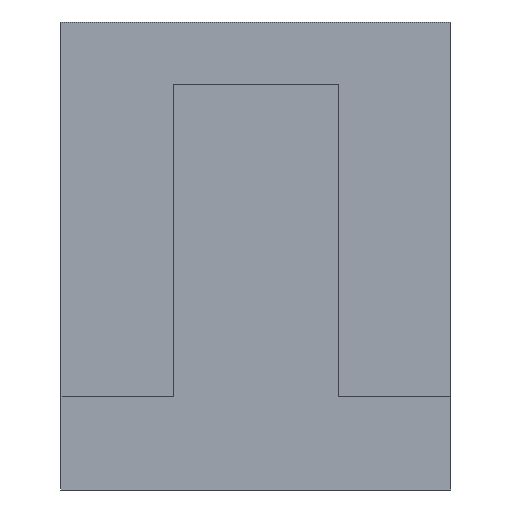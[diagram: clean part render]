
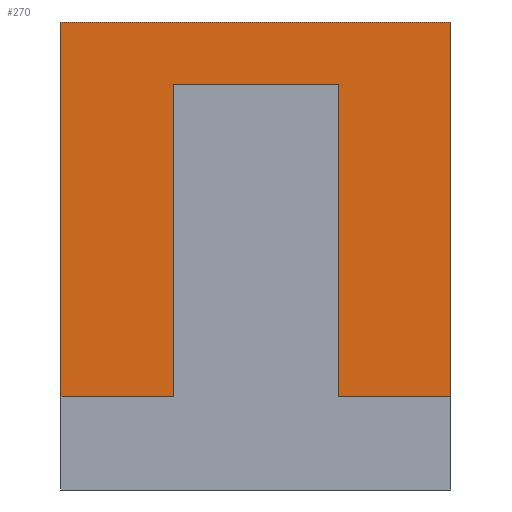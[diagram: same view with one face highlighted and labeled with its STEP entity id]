
A CAD part, left-side view. The second image highlights one B-rep face of the part: STEP entity #270.
In plain terms, the highlighted planar face has unit normal (-1, 0, 0).
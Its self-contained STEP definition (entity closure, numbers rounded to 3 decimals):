
#234=AXIS2_PLACEMENT_3D('Plane Axis2P3D',#231,#232,#233) ;
#231=CARTESIAN_POINT('Axis2P3D Location',(2.5,-12.5,6.)) ;
#236=CARTESIAN_POINT('Line Origine',(2.5,0.,30.)) ;
#240=CARTESIAN_POINT('Vertex',(2.5,12.5,30.)) ;
#242=CARTESIAN_POINT('Vertex',(2.5,-12.5,30.)) ;
#245=CARTESIAN_POINT('Line Origine',(2.5,12.5,18.)) ;
#249=CARTESIAN_POINT('Vertex',(2.5,12.5,6.)) ;
#252=CARTESIAN_POINT('Line Origine',(2.5,0.,6.)) ;
#256=CARTESIAN_POINT('Vertex',(2.5,-12.5,6.)) ;
#259=CARTESIAN_POINT('Line Origine',(2.5,-12.5,18.)) ;
#232=DIRECTION('Axis2P3D Direction',(1.,0.,0.)) ;
#233=DIRECTION('Axis2P3D XDirection',(0.,1.,0.)) ;
#237=DIRECTION('Vector Direction',(0.,-1.,0.)) ;
#246=DIRECTION('Vector Direction',(0.,0.,-1.)) ;
#253=DIRECTION('Vector Direction',(0.,1.,0.)) ;
#260=DIRECTION('Vector Direction',(0.,0.,-1.)) ;
#238=VECTOR('Line Direction',#237,1.) ;
#247=VECTOR('Line Direction',#246,1.) ;
#254=VECTOR('Line Direction',#253,1.) ;
#261=VECTOR('Line Direction',#260,1.) ;
#265=ORIENTED_EDGE('',*,*,#244,.F.) ;
#266=ORIENTED_EDGE('',*,*,#251,.T.) ;
#267=ORIENTED_EDGE('',*,*,#258,.T.) ;
#268=ORIENTED_EDGE('',*,*,#263,.F.) ;
#270=ADVANCED_FACE('\X2\96F64EF651E04F554F53\X0\',(#269),#235,.F.) ;
#244=EDGE_CURVE('',#241,#243,#239,.T.) ;
#251=EDGE_CURVE('',#241,#250,#248,.T.) ;
#258=EDGE_CURVE('',#250,#257,#255,.F.) ;
#263=EDGE_CURVE('',#243,#257,#262,.T.) ;
#264=EDGE_LOOP('',(#265,#266,#267,#268)) ;
#269=FACE_OUTER_BOUND('',#264,.T.) ;
#239=LINE('Line',#236,#238) ;
#248=LINE('Line',#245,#247) ;
#255=LINE('Line',#252,#254) ;
#262=LINE('Line',#259,#261) ;
#235=PLANE('Plane',#234) ;
#241=VERTEX_POINT('',#240) ;
#243=VERTEX_POINT('',#242) ;
#250=VERTEX_POINT('',#249) ;
#257=VERTEX_POINT('',#256) ;
